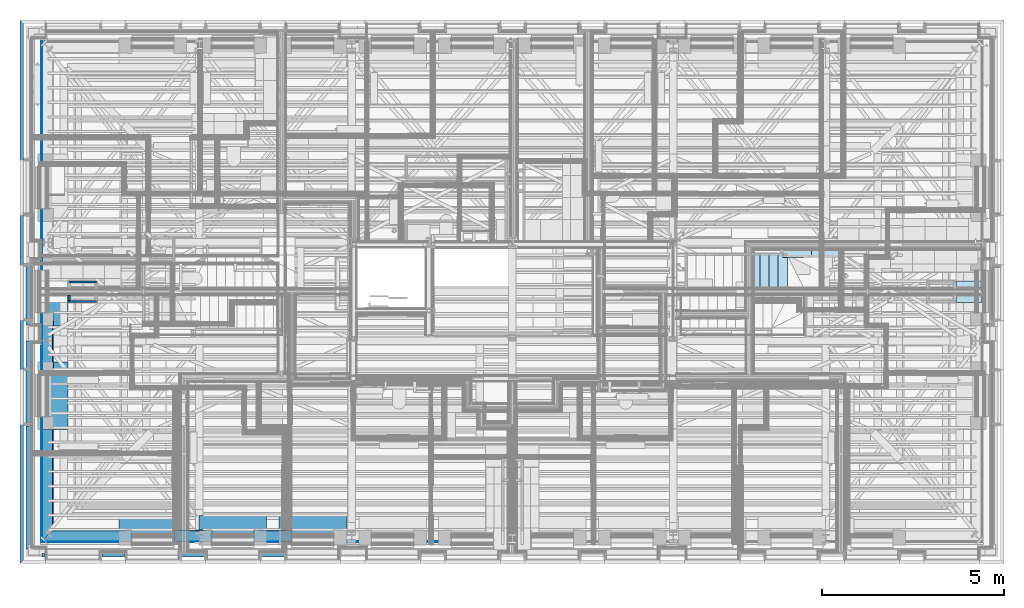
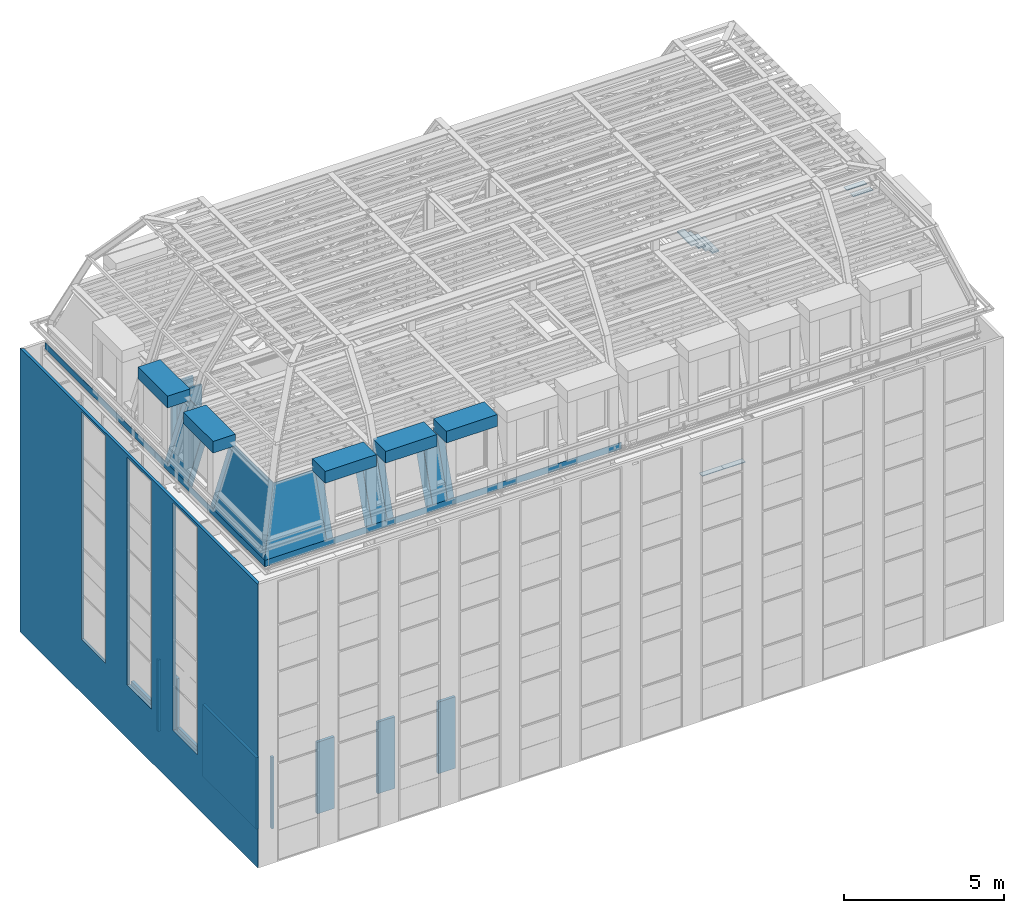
# One storey, part 13 of 183: 32 walls, 8 slabs, 3 openings.
"""IFC2X3 building model written with IfcOpenShell, lengths in metres."""

from ifc_helpers import new_model, entity, si_unit, converted_unit, derived_unit, money_unit, direction, frame, frame_2d, origin_with_axes, place, context, subcontext, project, spatial, polyline, rectangle, outline, extrude, clip, halfspace, faceted_brep, material, layer, layer_set, layer_usage, type_object, element, save


model = new_model("IFC2X3")

# Units and contexts
model_context = context("Model", 3, precision=1e-05, world=origin_with_axes(), true_north=direction((0.0, 1.0)))
body_context = subcontext(model_context, "Body", "Model", "MODEL_VIEW", scale=1.0)
ifc_project = project(units=[si_unit("LENGTHUNIT", "METRE"), si_unit("AREAUNIT", "SQUARE_METRE"), si_unit("VOLUMEUNIT", "CUBIC_METRE"), si_unit("ABSORBEDDOSEUNIT", "GRAY"), si_unit("AMOUNTOFSUBSTANCEUNIT", "MOLE"), si_unit("DOSEEQUIVALENTUNIT", "SIEVERT"), si_unit("ELECTRICCAPACITANCEUNIT", "FARAD"), si_unit("ELECTRICCHARGEUNIT", "COULOMB"), si_unit("ELECTRICCONDUCTANCEUNIT", "SIEMENS"), si_unit("ELECTRICCURRENTUNIT", "AMPERE"), si_unit("ELECTRICRESISTANCEUNIT", "OHM"), si_unit("ELECTRICVOLTAGEUNIT", "VOLT"), si_unit("ENERGYUNIT", "JOULE"), si_unit("FORCEUNIT", "NEWTON"), si_unit("FREQUENCYUNIT", "HERTZ"), si_unit("ILLUMINANCEUNIT", "LUX"), si_unit("INDUCTANCEUNIT", "HENRY"), si_unit("LUMINOUSFLUXUNIT", "LUMEN"), si_unit("LUMINOUSINTENSITYUNIT", "CANDELA"), si_unit("MAGNETICFLUXDENSITYUNIT", "TESLA"), si_unit("MAGNETICFLUXUNIT", "WEBER"), si_unit("MASSUNIT", "GRAM"), converted_unit("PLANEANGLEUNIT", "degree", entity("IfcReal", 0.0174532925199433), si_unit("PLANEANGLEUNIT", "RADIAN"), dimensions=[0, 0, 0, 0, 0, 0, 0]), si_unit("POWERUNIT", "WATT"), si_unit("PRESSUREUNIT", "PASCAL"), si_unit("RADIOACTIVITYUNIT", "BECQUEREL"), si_unit("SOLIDANGLEUNIT", "STERADIAN"), si_unit("THERMODYNAMICTEMPERATUREUNIT", "KELVIN"), si_unit("TIMEUNIT", "SECOND"), derived_unit("ACCELERATIONUNIT", [(si_unit("LENGTHUNIT", "METRE"), 1), (si_unit("TIMEUNIT", "SECOND"), -2)]), derived_unit("ANGULARVELOCITYUNIT", [(converted_unit("PLANEANGLEUNIT", "degree", entity("IfcReal", 0.0174532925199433), si_unit("PLANEANGLEUNIT", "RADIAN"), dimensions=[0, 0, 0, 0, 0, 0, 0]), 1), (si_unit("TIMEUNIT", "SECOND"), -1)]), derived_unit("CURVATUREUNIT", [(converted_unit("PLANEANGLEUNIT", "degree", entity("IfcReal", 0.0174532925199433), si_unit("PLANEANGLEUNIT", "RADIAN"), dimensions=[0, 0, 0, 0, 0, 0, 0]), 1), (si_unit("LENGTHUNIT", "METRE"), -1)]), derived_unit("DYNAMICVISCOSITYUNIT", [(si_unit("PRESSUREUNIT", "PASCAL"), 1), (si_unit("TIMEUNIT", "SECOND"), 1)]), derived_unit("HEATFLUXDENSITYUNIT", [(si_unit("POWERUNIT", "WATT"), 1), (si_unit("LENGTHUNIT", "METRE"), -2)]), derived_unit("HEATINGVALUEUNIT", [(si_unit("ENERGYUNIT", "JOULE"), 1), (si_unit("MASSUNIT", "GRAM"), -1)]), derived_unit("INTEGERCOUNTRATEUNIT", [(si_unit("TIMEUNIT", "SECOND"), -1)]), derived_unit("IONCONCENTRATIONUNIT", [(si_unit("MASSUNIT", "GRAM"), 1), (si_unit("VOLUMEUNIT", "CUBIC_METRE"), -1)]), derived_unit("ISOTHERMALMOISTURECAPACITYUNIT", [(si_unit("VOLUMEUNIT", "CUBIC_METRE"), 1), (si_unit("MASSUNIT", "GRAM"), -1)]), derived_unit("KINEMATICVISCOSITYUNIT", [(si_unit("AREAUNIT", "SQUARE_METRE"), 1), (si_unit("TIMEUNIT", "SECOND"), -1)]), derived_unit("LINEARFORCEUNIT", [(si_unit("FORCEUNIT", "NEWTON"), 1), (si_unit("LENGTHUNIT", "METRE"), -1)]), derived_unit("LINEARMOMENTUNIT", [(si_unit("FORCEUNIT", "NEWTON"), 1), (si_unit("LENGTHUNIT", "METRE"), -1)]), derived_unit("LINEARSTIFFNESSUNIT", [(si_unit("FORCEUNIT", "NEWTON"), 1), (si_unit("LENGTHUNIT", "METRE"), -1)]), derived_unit("LINEARVELOCITYUNIT", [(si_unit("LENGTHUNIT", "METRE"), 1), (si_unit("TIMEUNIT", "SECOND"), -1)]), derived_unit("LUMINOUSINTENSITYDISTRIBUTIONUNIT", [(si_unit("LUMINOUSINTENSITYUNIT", "CANDELA"), 1), (si_unit("LUMINOUSFLUXUNIT", "LUMEN"), -1)]), derived_unit("MASSDENSITYUNIT", [(si_unit("MASSUNIT", "GRAM"), 1), (si_unit("VOLUMEUNIT", "CUBIC_METRE"), -1)]), derived_unit("MASSFLOWRATEUNIT", [(si_unit("MASSUNIT", "GRAM"), 1), (si_unit("TIMEUNIT", "SECOND"), -1)]), derived_unit("MASSPERLENGTHUNIT", [(si_unit("MASSUNIT", "GRAM"), 1), (si_unit("LENGTHUNIT", "METRE"), -1)]), derived_unit("MODULUSOFELASTICITYUNIT", [(si_unit("FORCEUNIT", "NEWTON"), 1), (si_unit("AREAUNIT", "SQUARE_METRE"), -1)]), derived_unit("MODULUSOFLINEARSUBGRADEREACTIONUNIT", [(si_unit("FORCEUNIT", "NEWTON"), 1), (si_unit("LENGTHUNIT", "METRE"), -2)]), derived_unit("MODULUSOFROTATIONALSUBGRADEREACTIONUNIT", [(si_unit("FORCEUNIT", "NEWTON"), 1), (si_unit("LENGTHUNIT", "METRE"), 1)]), derived_unit("MODULUSOFSUBGRADEREACTIONUNIT", [(si_unit("FORCEUNIT", "NEWTON"), 1), (si_unit("VOLUMEUNIT", "CUBIC_METRE"), -1)]), derived_unit("MOISTUREDIFFUSIVITYUNIT", [(si_unit("VOLUMEUNIT", "CUBIC_METRE"), 1), (si_unit("TIMEUNIT", "SECOND"), -1)]), derived_unit("MOLECULARWEIGHTUNIT", [(si_unit("MASSUNIT", "GRAM"), 1), (si_unit("AMOUNTOFSUBSTANCEUNIT", "MOLE"), -1)]), derived_unit("PLANARFORCEUNIT", [(si_unit("FORCEUNIT", "NEWTON"), 1), (si_unit("LENGTHUNIT", "METRE"), -2)]), derived_unit("ROTATIONALFREQUENCYUNIT", [(si_unit("TIMEUNIT", "SECOND"), -1)]), derived_unit("ROTATIONALMASSUNIT", [(si_unit("MASSUNIT", "GRAM"), 1), (si_unit("LENGTHUNIT", "METRE"), 2)]), derived_unit("ROTATIONALSTIFFNESSUNIT", [(si_unit("FORCEUNIT", "NEWTON"), 1), (si_unit("LENGTHUNIT", "METRE"), 1), (converted_unit("PLANEANGLEUNIT", "degree", entity("IfcReal", 0.0174532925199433), si_unit("PLANEANGLEUNIT", "RADIAN"), dimensions=[0, 0, 0, 0, 0, 0, 0]), -1)]), derived_unit("SECTIONAREAINTEGRALUNIT", [(si_unit("LENGTHUNIT", "METRE"), 5)]), derived_unit("SECTIONMODULUSUNIT", [(si_unit("LENGTHUNIT", "METRE"), 3)]), derived_unit("SHEARMODULUSUNIT", [(si_unit("FORCEUNIT", "NEWTON"), 1), (si_unit("AREAUNIT", "SQUARE_METRE"), -1)]), derived_unit("SOUNDPOWERUNIT", [(si_unit("ENERGYUNIT", "JOULE"), 1), (si_unit("TIMEUNIT", "SECOND"), -1)]), derived_unit("SPECIFICHEATCAPACITYUNIT", [(si_unit("FORCEUNIT", "NEWTON"), 1), (si_unit("MASSUNIT", "GRAM"), -1), (si_unit("THERMODYNAMICTEMPERATUREUNIT", "KELVIN"), -1)]), derived_unit("TEMPERATUREGRADIENTUNIT", [(si_unit("THERMODYNAMICTEMPERATUREUNIT", "KELVIN"), 1), (si_unit("LENGTHUNIT", "METRE"), -1)]), derived_unit("THERMALADMITTANCEUNIT", [(si_unit("POWERUNIT", "WATT"), 1), (si_unit("AREAUNIT", "SQUARE_METRE"), -1), (si_unit("THERMODYNAMICTEMPERATUREUNIT", "KELVIN"), -1)]), derived_unit("THERMALCONDUCTANCEUNIT", [(si_unit("POWERUNIT", "WATT"), 1), (si_unit("LENGTHUNIT", "METRE"), -1), (si_unit("THERMODYNAMICTEMPERATUREUNIT", "KELVIN"), -1)]), derived_unit("THERMALEXPANSIONCOEFFICIENTUNIT", [(si_unit("THERMODYNAMICTEMPERATUREUNIT", "KELVIN"), -1)]), derived_unit("THERMALRESISTANCEUNIT", [(si_unit("AREAUNIT", "SQUARE_METRE"), 1), (si_unit("POWERUNIT", "WATT"), -1)]), derived_unit("THERMALTRANSMITTANCEUNIT", [(si_unit("POWERUNIT", "WATT"), 1), (si_unit("AREAUNIT", "SQUARE_METRE"), -1), (si_unit("THERMODYNAMICTEMPERATUREUNIT", "KELVIN"), -1)]), derived_unit("TORQUEUNIT", [(si_unit("FORCEUNIT", "NEWTON"), 1), (si_unit("LENGTHUNIT", "METRE"), 1)]), derived_unit("VAPORPERMEABILITYUNIT", [(si_unit("MASSUNIT", "GRAM"), 1), (si_unit("TIMEUNIT", "SECOND"), -1)]), derived_unit("VOLUMETRICFLOWRATEUNIT", [(si_unit("VOLUMEUNIT", "CUBIC_METRE"), 1), (si_unit("TIMEUNIT", "SECOND"), -1)]), derived_unit("WARPINGCONSTANTUNIT", [(si_unit("LENGTHUNIT", "METRE"), 6)]), derived_unit("WARPINGMOMENTUNIT", [(si_unit("FORCEUNIT", "NEWTON"), 1), (si_unit("LENGTHUNIT", "METRE"), 2)]), money_unit("GBP")], contexts=[model_context])

# Site, building, storey
site_placement = place(None, origin_with_axes())
site = spatial("IfcSite", under=ifc_project, at=site_placement, Name="Site", CompositionType="ELEMENT")
building_placement = place(site_placement, origin_with_axes())
building = spatial("IfcBuilding", under=site, at=building_placement, Name="Building01", CompositionType="ELEMENT")
storey_placement = place(building_placement, frame((0.0, 0.0, 5.15), z_axis=(0.0, 0.0, 1.0), x_axis=(1.0, 0.0, 0.0)))
storey = spatial("IfcBuildingStorey", under=building, at=storey_placement, Name="1F", CompositionType="ELEMENT", Elevation=5.15)

# Slabs
ifc_material_1 = material(Name="A_BSUK_Ceramic_WallTiles")
slab_type = type_object("IfcSlabType", Name="A-FloorsSlabs A_BSUK_Slabs", PredefinedType="FLOOR")
placement = place(storey_placement, frame((0.0, 0.0, -5.15), z_axis=(0.0, 0.0, 1.0), x_axis=(1.0, 0.0, 0.0)))
element("IfcSlab", 1, at=placement, inside=storey, type_object=slab_type, material=ifc_material_1, Name="A-FloorsSlabs A_BSUK_Slabs", ObjectType="CompoundSlabLeaf", context=body_context, shape_type="Brep", body=[
    faceted_brep([(22.476661, 8.595, 6.525), (22.476661, 8.595, 6.55), (22.476661, 8.395001, 6.55), (22.476661, 8.395001, 6.525), (21.699661, 8.594999, 6.525), (21.699661, 8.594999, 6.55), (21.699661, 8.395003, 6.525), (21.699661, 8.395003, 6.55)], [[[0, 1, 2, 3]], [[4, 5, 1, 0]], [[6, 7, 5, 4]], [[3, 2, 7, 6]], [[1, 5, 7, 2]], [[3, 6, 4, 0]]]),
])
element("IfcSlab", 2, at=placement, inside=storey, type_object=slab_type, material=ifc_material_1, Name="A-FloorsSlabs A_BSUK_Slabs", ObjectType="CompoundSlabLeaf", context=body_context, shape_type="Brep", body=[
    faceted_brep([(21.699661, 8.595, 6.525), (21.699661, 8.595, 6.55), (21.699661, 8.395003, 6.55), (21.699661, 8.395003, 6.525), (20.922661, 8.595, 6.525), (20.922661, 8.595, 6.55), (20.922661, 8.394685, 6.525), (20.922661, 8.394685, 6.55)], [[[0, 1, 2, 3]], [[4, 5, 1, 0]], [[6, 7, 5, 4]], [[3, 2, 7, 6]], [[1, 5, 7, 2]], [[3, 6, 4, 0]]]),
])
element("IfcSlab", 3, at=placement, inside=storey, type_object=slab_type, material=ifc_material_1, Name="A-FloorsSlabs A_BSUK_Slabs", ObjectType="CompoundSlabLeaf", context=body_context, shape_type="Brep", body=[
    faceted_brep([(26.380061, 7.749913, 16.305), (26.380061, 7.749913, 16.33), (26.380061, 7.549915, 16.33), (26.380061, 7.549915, 16.305), (25.658821, 7.749913, 16.305), (25.658821, 7.749913, 16.33), (25.658821, 7.549915, 16.305), (25.658821, 7.549915, 16.33)], [[[0, 1, 2, 3]], [[4, 5, 1, 0]], [[6, 7, 5, 4]], [[3, 2, 7, 6]], [[1, 5, 7, 2]], [[3, 6, 4, 0]]]),
])
element("IfcSlab", 4, at=placement, inside=storey, type_object=slab_type, material=ifc_material_1, Name="A-FloorsSlabs A_BSUK_Slabs", ObjectType="CompoundSlabLeaf", context=body_context, shape_type="Brep", body=[
    faceted_brep([(26.380061, 7.349964, 16.305), (26.380061, 7.349964, 16.33), (26.380061, 7.149966, 16.33), (26.380061, 7.149966, 16.305), (25.658821, 7.349964, 16.305), (25.658821, 7.349964, 16.33), (25.658821, 7.149966, 16.305), (25.658821, 7.149966, 16.33)], [[[0, 1, 2, 3]], [[4, 5, 1, 0]], [[6, 7, 5, 4]], [[3, 2, 7, 6]], [[1, 5, 7, 2]], [[3, 6, 4, 0]]]),
])
ifc_material_2 = material(Name="A_BSUK_Slabs")
element("IfcSlab", 5, at=placement, inside=storey, type_object=slab_type, material=ifc_material_2, Name="A-FloorsSlabs A_BSUK_Slabs", ObjectType="CompoundSlabLeaf", context=body_context, shape_type="Brep", body=[
    faceted_brep([(20.289976, 7.549915, 16.14), (20.289976, 7.549915, 16.19), (20.039976, 7.549915, 16.19), (20.039976, 7.549915, 16.14), (20.289976, 8.449915, 16.14), (20.289976, 8.449915, 16.19), (20.039976, 8.449915, 16.14), (20.039976, 8.449915, 16.19)], [[[0, 1, 2, 3]], [[4, 5, 1, 0]], [[6, 7, 5, 4]], [[3, 2, 7, 6]], [[1, 5, 7, 2]], [[3, 6, 4, 0]]]),
])
element("IfcSlab", 6, at=placement, inside=storey, type_object=slab_type, material=ifc_material_2, Name="A-FloorsSlabs A_BSUK_Slabs", ObjectType="CompoundSlabLeaf", context=body_context, shape_type="Brep", body=[
    faceted_brep([(20.539976, 7.549915, 15.96), (20.539976, 7.549915, 16.01), (20.289976, 7.549915, 16.01), (20.289976, 7.549915, 15.96), (20.539976, 8.449915, 15.96), (20.539976, 8.449915, 16.01), (20.289976, 8.449915, 15.96), (20.289976, 8.449915, 16.01)], [[[0, 1, 2, 3]], [[4, 5, 1, 0]], [[6, 7, 5, 4]], [[3, 2, 7, 6]], [[1, 5, 7, 2]], [[3, 6, 4, 0]]]),
])
element("IfcSlab", 7, at=placement, inside=storey, type_object=slab_type, material=ifc_material_2, Name="A-FloorsSlabs A_BSUK_Slabs", ObjectType="CompoundSlabLeaf", context=body_context, shape_type="Brep", body=[
    faceted_brep([(20.789976, 7.549915, 15.78), (20.789976, 7.549915, 15.83), (20.539976, 7.549915, 15.83), (20.539976, 7.549915, 15.78), (20.789976, 8.449915, 15.78), (20.789976, 8.449915, 15.83), (20.539976, 8.449915, 15.78), (20.539976, 8.449915, 15.83)], [[[0, 1, 2, 3]], [[4, 5, 1, 0]], [[6, 7, 5, 4]], [[3, 2, 7, 6]], [[1, 5, 7, 2]], [[3, 6, 4, 0]]]),
])
element("IfcSlab", 8, at=placement, inside=storey, type_object=slab_type, material=ifc_material_2, Name="A-FloorsSlabs A_BSUK_Slabs", ObjectType="CompoundSlabLeaf", context=body_context, shape_type="Brep", body=[
    faceted_brep([(21.039976, 7.549915, 15.6), (21.039976, 7.549915, 15.65), (20.789976, 7.549915, 15.65), (20.789976, 7.549915, 15.6), (21.039976, 8.449915, 15.6), (21.039976, 8.449915, 15.65), (20.789976, 8.449915, 15.6), (20.789976, 8.449915, 15.65)], [[[0, 1, 2, 3]], [[4, 5, 1, 0]], [[6, 7, 5, 4]], [[3, 2, 7, 6]], [[1, 5, 7, 2]], [[3, 6, 4, 0]]]),
])

# Wall, openings
ifc_material_3 = material(Name="A_BSUK_WallsExternal_Brick")
ifc_layer_1 = layer(ifc_material_3, 0.1, ventilated=False)
ifc_layer_set_1 = layer_set([ifc_layer_1])
ifc_layer_usage_1 = layer_usage(ifc_layer_set_1, "AXIS2", "POSITIVE", 0.0)
wall_type_1 = type_object("IfcWallType", Name="A-Walls-ExternalBrick", PredefinedType="NOTDEFINED")
wall_1_placement = place(storey_placement, frame((0.0, 0.0, -1.18), z_axis=(0.0, 0.0, 1.0), x_axis=(0.0, 1.0, 0.0)))
wall_1 = element("IfcWallStandardCase", 9, at=wall_1_placement, inside=storey, type_object=wall_type_1, material=ifc_layer_usage_1, Name="A-Walls-ExternalBrick", ObjectType="A-Walls-ExternalBrick", context=body_context, shape_type="SweptSolid", body=[
    extrude(outline(polyline([(14.9, 0.0), (0.0, 0.0), (0.1, -0.1), (14.8, -0.1), (14.9, 0.0)])), origin_with_axes(), (0.0, 0.0, 1.0), 10.850238),
])
opening_1_placement = place(wall_1_placement, frame((9.53718, -0.1, 2.045508), z_axis=(0.0, 0.0, 1.0), x_axis=(1.0, 0.0, 0.0)))
element("IfcOpeningElement", 10, at=opening_1_placement, cuts=wall_1, Name="Opening", ObjectType="Opening", context=body_context, shape_type="SweptSolid", body=[
    extrude(rectangle(XDim=1.52, YDim=8.7, at=frame_2d((-0.76, 4.35), x_axis=(-1.0, 0.0))), frame((0.0, 0.0, 0.0), z_axis=(0.0, 1.0, 0.0), x_axis=(-1.0, 0.0, 0.0)), (0.0, 0.0, 1.0), 0.1),
])
opening_2_placement = place(wall_1_placement, frame((6.66718, -0.1, 2.045508), z_axis=(0.0, 0.0, 1.0), x_axis=(1.0, 0.0, 0.0)))
element("IfcOpeningElement", 11, at=opening_2_placement, cuts=wall_1, Name="Opening", ObjectType="Opening", context=body_context, shape_type="SweptSolid", body=[
    extrude(rectangle(XDim=1.52, YDim=8.7, at=frame_2d((-0.76, 4.35), x_axis=(-1.0, 0.0))), frame((0.0, 0.0, 0.0), z_axis=(0.0, 1.0, 0.0), x_axis=(-1.0, 0.0, 0.0)), (0.0, 0.0, 1.0), 0.1),
])
opening_3_placement = place(wall_1_placement, frame((3.79718, -0.1, 2.045508), z_axis=(0.0, 0.0, 1.0), x_axis=(1.0, 0.0, 0.0)))
element("IfcOpeningElement", 12, at=opening_3_placement, cuts=wall_1, Name="Opening", ObjectType="Opening", context=body_context, shape_type="SweptSolid", body=[
    extrude(rectangle(XDim=1.52, YDim=8.7, at=frame_2d((-0.76, 4.35), x_axis=(-1.0, 0.0))), frame((0.0, 0.0, 0.0), z_axis=(0.0, 1.0, 0.0), x_axis=(-1.0, 0.0, 0.0)), (0.0, 0.0, 1.0), 0.1),
])

# Walls
ifc_material_4 = material(Name="A_BSUK_WallsExternal_Block")
ifc_layer_2 = layer(ifc_material_4, 0.1, ventilated=False)
ifc_layer_set_2 = layer_set([ifc_layer_2])
ifc_layer_usage_2 = layer_usage(ifc_layer_set_2, "AXIS2", "POSITIVE", 0.0)
wall_type_2 = type_object("IfcWallType", Name="A-Walls-ExternalBlock", PredefinedType="NOTDEFINED")
wall_2_placement = place(storey_placement, frame((0.17, 8.233, 0.0), z_axis=(0.0, 0.0, 1.0), x_axis=(0.0, -1.0, 0.0)))
element("IfcWallStandardCase", 13, at=wall_2_placement, inside=storey, type_object=wall_type_2, material=ifc_layer_usage_2, Name="A-Walls-ExternalBlock", ObjectType="A-Walls-ExternalBlock", context=body_context, shape_type="SweptSolid", body=[
    extrude(rectangle(XDim=1.58882, YDim=0.1, at=frame_2d((0.79441, 0.05), x_axis=(1.0, 0.0))), origin_with_axes(), (0.0, 0.0, 1.0), 0.915),
])
wall_3_placement = place(storey_placement, frame((0.17, 6.64418, 0.0), z_axis=(0.0, 0.0, 1.0), x_axis=(0.0, -1.0, 0.0)))
element("IfcWallStandardCase", 14, at=wall_3_placement, inside=storey, type_object=wall_type_2, material=ifc_layer_usage_2, Name="A-Walls-ExternalBlock", ObjectType="A-Walls-ExternalBlock", context=body_context, shape_type="SweptSolid", body=[
    extrude(rectangle(XDim=0.09618, YDim=0.1, at=frame_2d((0.04809, 0.05), x_axis=(-1.0, 0.0))), origin_with_axes(), (0.0, 0.0, 1.0), 2.74),
])
wall_4_placement = place(storey_placement, frame((0.17, 6.1, 0.0), z_axis=(0.0, 0.0, 1.0), x_axis=(0.0, -1.0, 0.0)))
element("IfcWallStandardCase", 15, at=wall_4_placement, inside=storey, type_object=wall_type_2, material=ifc_layer_usage_2, Name="A-Walls-ExternalBlock", ObjectType="A-Walls-ExternalBlock", context=body_context, shape_type="SweptSolid", body=[
    extrude(rectangle(XDim=0.737, YDim=0.1, at=frame_2d((0.3685, 0.05), x_axis=(-1.0, 0.0))), origin_with_axes(), (0.0, 0.0, 1.0), 2.74),
])
wall_5_placement = place(storey_placement, frame((0.17, 3.77418, 0.0), z_axis=(0.0, 0.0, 1.0), x_axis=(0.0, -1.0, 0.0)))
element("IfcWallStandardCase", 16, at=wall_5_placement, inside=storey, type_object=wall_type_2, material=ifc_layer_usage_2, Name="A-Walls-ExternalBlock", ObjectType="A-Walls-ExternalBlock", context=body_context, shape_type="SweptSolid", body=[
    extrude(rectangle(XDim=0.1, YDim=3.37418, at=frame_2d((1.68709, 0.05), x_axis=(0.0, -1.0))), origin_with_axes(), (0.0, 0.0, 1.0), 2.74),
])
wall_6_placement = place(storey_placement, frame((0.677, 0.27, 0.0), z_axis=(0.0, 0.0, 1.0), x_axis=(-1.0, 0.0, 0.0)))
element("IfcWallStandardCase", 17, at=wall_6_placement, inside=storey, type_object=wall_type_2, material=ifc_layer_usage_2, Name="A-Walls-ExternalBlock", ObjectType="A-Walls-ExternalBlock", context=body_context, shape_type="SweptSolid", body=[
    extrude(rectangle(XDim=0.1, YDim=0.077, at=frame_2d((0.0385, 0.05), x_axis=(0.0, -1.0))), origin_with_axes(), (0.0, 0.0, 1.0), 2.74),
])
for number, where, z_axis, x_axis, name in (
    (18, (2.867, 0.27, 0.0), (0.0, 0.0, 1.0), (-1.0, 0.0, 0.0), "A-Walls-ExternalBlock"),
    (19, (5.057, 0.27, 0.0), (0.0, 0.0, 1.0), (-1.0, 0.0, 0.0), "A-Walls-ExternalBlock"),
    (20, (7.247, 0.27, 0.0), (0.0, 0.0, 1.0), (-1.0, 0.0, 0.0), "A-Walls-ExternalBlock"),
):
    element("IfcWallStandardCase", number, at=place(storey_placement, frame(where, z_axis=z_axis, x_axis=x_axis)), inside=storey, type_object=wall_type_2, material=ifc_layer_usage_2, Name=name, ObjectType="A-Walls-ExternalBlock", context=body_context, shape_type="SweptSolid", body=[
        extrude(rectangle(XDim=0.624, YDim=0.1, at=frame_2d((0.312, 0.05), x_axis=(-1.0, 0.0))), origin_with_axes(), (0.0, 0.0, 1.0), 2.74),
    ])
wall_7_placement = place(storey_placement, frame((0.17, 5.315, 0.0), z_axis=(0.0, 0.0, 1.0), x_axis=(0.0, -1.0, 0.0)))
element("IfcWallStandardCase", 21, at=wall_7_placement, inside=storey, type_object=wall_type_2, material=ifc_layer_usage_2, Name="A-Walls-ExternalBlock", ObjectType="A-Walls-ExternalBlock", context=body_context, shape_type="SweptSolid", body=[
    extrude(rectangle(XDim=0.1, YDim=1.54082, at=frame_2d((0.77041, 0.05), x_axis=(0.0, -1.0))), origin_with_axes(), (0.0, 0.0, 1.0), 0.915),
])
ifc_material_5 = material(Name="A_BSUK_WallsInternal")
ifc_layer_3 = layer(ifc_material_5, 0.025, ventilated=False)
ifc_layer_set_3 = layer_set([ifc_layer_3])
ifc_layer_usage_3 = layer_usage(ifc_layer_set_3, "AXIS2", "POSITIVE", 0.0)
wall_type_3 = type_object("IfcWallType", Name="A-Walls-Internal", PredefinedType="NOTDEFINED")
wall_8_placement = place(storey_placement, frame((0.5788, 0.5788, 9.78), z_axis=(0.0, 0.0, 1.0), x_axis=(1.0, 0.0, 0.0)))
element("IfcWallStandardCase", 22, at=wall_8_placement, inside=storey, type_object=wall_type_3, material=ifc_layer_usage_3, Name="7C", ObjectType="A-Walls-Internal", context=body_context, shape_type="SweptSolid", body=[
    extrude(outline(polyline([(0.025, 0.025), (0.0, 0.0), (12.9112, 0.0), (12.9112, 0.025), (0.025, 0.025)])), origin_with_axes(), (0.0, 0.0, 1.0), 0.25),
])
wall_9_placement = place(storey_placement, frame((0.5788, 7.45, 9.78), z_axis=(0.0, 0.0, 1.0), x_axis=(0.0, -1.0, 0.0)))
element("IfcWallStandardCase", 23, at=wall_9_placement, inside=storey, type_object=wall_type_3, material=ifc_layer_usage_3, Name="7C", ObjectType="A-Walls-Internal", context=body_context, shape_type="SweptSolid", body=[
    extrude(outline(polyline([(6.8462, 0.025), (0.0, 0.025), (0.0, 0.0), (6.8712, 0.0), (6.8462, 0.025)])), origin_with_axes(), (0.0, 0.0, 1.0), 0.25),
])
ifc_layer_4 = layer(ifc_material_5, 0.015, ventilated=False)
ifc_layer_set_4 = layer_set([ifc_layer_4])
ifc_layer_usage_4 = layer_usage(ifc_layer_set_4, "AXIS2", "POSITIVE", 0.0)
wall_10_placement = place(storey_placement, frame((0.5788, 14.3212, 9.78), z_axis=(0.0, 0.0, 1.0), x_axis=(0.0, -1.0, 0.0)))
element("IfcWallStandardCase", 24, at=wall_10_placement, inside=storey, type_object=wall_type_3, material=ifc_layer_usage_4, Name="7C", ObjectType="A-Walls-Internal", context=body_context, shape_type="SweptSolid", body=[
    extrude(rectangle(XDim=13.7424, YDim=0.015, at=frame_2d((6.8712, 0.0075), x_axis=(-1.0, 0.0))), origin_with_axes(), (0.0, 0.0, 1.0), 0.25),
])
wall_11_placement = place(storey_placement, frame((0.5938, 14.3062, 9.78), z_axis=(0.0, 0.0, 1.0), x_axis=(0.0, -1.0, 0.0)))
element("IfcWallStandardCase", 25, at=wall_11_placement, inside=storey, type_object=wall_type_3, material=ifc_layer_usage_4, Name="7C", ObjectType="A-Walls-Internal", context=body_context, shape_type="SweptSolid", body=[
    extrude(rectangle(XDim=13.7124, YDim=0.015, at=frame_2d((6.8562, 0.0075), x_axis=(-1.0, 0.0))), origin_with_axes(), (0.0, 0.0, 1.0), 0.25),
])
ifc_material_6 = material(Name="A_BSUK_Walls_Timber")
ifc_layer_5 = layer(ifc_material_6, 0.015, ventilated=False)
ifc_material_7 = material(Name="A_BSUK_OpeningsClearance")
ifc_layer_6 = layer(ifc_material_7, 0.05, ventilated=False)
ifc_layer_set_5 = layer_set([ifc_layer_5, ifc_layer_6])
ifc_layer_usage_5 = layer_usage(ifc_layer_set_5, "AXIS2", "POSITIVE", 0.0)
wall_type_4 = type_object("IfcWallType", Name="SHE_A-Walls_Type05c_PreWallShell_65mm", PredefinedType="NOTDEFINED")
wall_12_placement = place(storey_placement, frame((2.100111, 7.21494, 9.78), z_axis=(0.0, 0.0, 1.0), x_axis=(1.0, 0.0, 0.0)))
element("IfcWallStandardCase", 26, at=wall_12_placement, inside=storey, type_object=wall_type_4, material=ifc_layer_usage_5, Name="5C", ObjectType="SHE_A-Walls_Type05c_PreWallShell_65mm", context=body_context, shape_type="SweptSolid", body=[
    extrude(outline(polyline([(0.015, -0.065), (0.015, -0.05), (0.0, -0.05), (0.0, 0.0), (-0.77, 0.0), (-0.77, -0.05), (-0.785, -0.05), (-0.785, -0.065), (0.015, -0.065)])), origin_with_axes(), (0.0, 0.0, 1.0), 2.468),
])
ifc_layer_set_6 = layer_set([ifc_layer_6, ifc_layer_5])
ifc_layer_usage_6 = layer_usage(ifc_layer_set_6, "AXIS2", "POSITIVE", 0.0)
wall_13_placement = place(storey_placement, frame((1.380111, 7.349889, 9.78), z_axis=(0.0, 0.0, 1.0), x_axis=(0.0, 1.0, 0.0)))
element("IfcWallStandardCase", 27, at=wall_13_placement, inside=storey, type_object=wall_type_4, material=ifc_layer_usage_6, Name="5C", ObjectType="SHE_A-Walls_Type05c_PreWallShell_65mm", context=body_context, shape_type="SweptSolid", body=[
    extrude(outline(polyline([(0.0, 0.0), (0.0, 0.065), (-0.184949, 0.065), (-0.184949, 0.05), (-0.134949, 0.05), (-0.134949, 0.0), (0.0, 0.0)])), origin_with_axes(), (0.0, 0.0, 1.0), 2.468),
])
wall_14_placement = place(storey_placement, frame((2.100111, 7.68506, 9.78), z_axis=(0.0, 0.0, 1.0), x_axis=(-1.0, 0.0, 0.0)))
element("IfcWallStandardCase", 28, at=wall_14_placement, inside=storey, type_object=wall_type_4, material=ifc_layer_usage_5, Name="5C", ObjectType="SHE_A-Walls_Type05c_PreWallShell_65mm", context=body_context, shape_type="SweptSolid", body=[
    extrude(outline(polyline([(0.77, -0.05), (0.77, 0.0), (0.0, 0.0), (0.0, -0.05), (-0.015, -0.05), (-0.015, -0.065), (0.785, -0.065), (0.785, -0.05), (0.77, -0.05)])), origin_with_axes(), (0.0, 0.0, 1.0), 2.468),
])
ifc_material_8 = material(Name="A_BSUK_Roofs")
wall_type_5 = type_object("IfcWallType", Name="A-Walls-ExternalBlock", PredefinedType="NOTDEFINED")
for number, where, z_axis, x_axis, name in (
    (29, (2.720049, 1.31, 12.729998), (1.0, 0.0, 0.0), (0.0, -1.0, 0.0), "7C"),
    (30, (4.910049, 1.31, 12.729998), (1.0, 0.0, 0.0), (0.0, -1.0, 0.0), "7C"),
    (31, (7.100049, 1.31, 12.729998), (1.0, 0.0, 0.0), (0.0, -1.0, 0.0), "7C"),
    (32, (1.309904, 5.524891, 12.729998), (0.0, -1.0, 0.0), (-1.0, 0.0, 0.0), "7C"),
    (33, (1.309904, 8.374891, 12.729998), (0.0, -1.0, 0.0), (-1.0, 0.0, 0.0), "7C"),
):
    element("IfcWall", number, at=place(storey_placement, frame(where, z_axis=z_axis, x_axis=x_axis)), inside=storey, type_object=wall_type_5, material=ifc_material_8, Name=name, ObjectType="A-Walls-ExternalBlock", context=body_context, shape_type="SweptSolid", body=[
        extrude(rectangle(XDim=0.81, YDim=0.45, at=frame_2d((0.405, 0.225), x_axis=(1.0, 0.0))), origin_with_axes(), (0.0, 0.0, 1.0), 1.849951),
    ])
wall_type_6 = type_object("IfcWallType", Name="A-Walls-Internal", PredefinedType="NOTDEFINED")
wall_15_placement = place(storey_placement, frame((0.5788, 3.774964, 10.03), z_axis=(0.30901699, 0.0, 0.95105652), x_axis=(0.0, -1.0, 0.0)))
element("IfcWall", 34, at=wall_15_placement, inside=storey, type_object=wall_type_6, material=ifc_material_5, Name="7C", ObjectType="A-Walls-Internal", context=body_context, shape_type="Clipping", body=[
    clip(extrude(outline(polyline([(3.181898, 0.015), (0.0, 0.015), (0.0, 0.0), (3.196164, 0.0), (3.181898, 0.015)])), origin_with_axes(), (0.0, 0.0, 1.0), 2.373987), halfspace(frame((1.598082, 1.519866, 0.493834), z_axis=(-0.70710678, -0.67249851, -0.21850801), x_axis=(0.68915176, -0.72461704, 0.0)), True)),
])
wall_16_placement = place(storey_placement, frame((0.5788, 0.5788, 10.03), z_axis=(0.0, 0.30901699, 0.95105652), x_axis=(1.0, 0.0, 0.0)))
element("IfcWall", 35, at=wall_16_placement, inside=storey, type_object=wall_type_6, material=ifc_material_5, Name="7C", ObjectType="A-Walls-Internal", context=body_context, shape_type="Clipping", body=[
    clip(extrude(outline(polyline([(2.241224, 0.015), (0.014266, 0.015), (0.0, 0.0), (2.241224, 0.0), (2.241224, 0.015)])), origin_with_axes(), (0.0, 0.0, 1.0), 2.373987), halfspace(frame((0.0, 0.0, 0.0), z_axis=(0.70710678, -0.67249851, -0.21850801), x_axis=(0.68915176, 0.72461704, 0.0)), True)),
])
wall_17_placement = place(storey_placement, frame((4.469976, 0.5788, 10.03), z_axis=(0.0, 0.30901699, 0.95105652), x_axis=(1.0, 0.0, 0.0)))
element("IfcWall", 36, at=wall_17_placement, inside=storey, type_object=wall_type_6, material=ifc_material_5, Name="7C", ObjectType="A-Walls-Internal", context=body_context, shape_type="SweptSolid", body=[
    extrude(rectangle(XDim=0.540049, YDim=0.015, at=frame_2d((0.270024, 0.0075), x_axis=(-1.0, 0.0))), origin_with_axes(), (0.0, 0.0, 1.0), 2.373987),
])
wall_18_placement = place(storey_placement, frame((6.660024, 0.5788, 10.03), z_axis=(0.0, 0.30901699, 0.95105652), x_axis=(1.0, 0.0, 0.0)))
element("IfcWall", 37, at=wall_18_placement, inside=storey, type_object=wall_type_6, material=ifc_material_5, Name="7C", ObjectType="A-Walls-Internal", context=body_context, shape_type="SweptSolid", body=[
    extrude(rectangle(XDim=0.540001, YDim=0.015, at=frame_2d((0.27, 0.0075), x_axis=(-1.0, 0.0))), origin_with_axes(), (0.0, 0.0, 1.0), 2.373987),
])
wall_19_placement = place(storey_placement, frame((0.5788, 6.624965, 10.03), z_axis=(0.30901699, 0.0, 0.95105652), x_axis=(0.0, -1.0, 0.0)))
element("IfcWall", 38, at=wall_19_placement, inside=storey, type_object=wall_type_6, material=ifc_material_5, Name="7C", ObjectType="A-Walls-Internal", context=body_context, shape_type="SweptSolid", body=[
    extrude(rectangle(XDim=1.20005, YDim=0.015, at=frame_2d((0.600025, 0.0075), x_axis=(-1.0, 0.0))), origin_with_axes(), (0.0, 0.0, 1.0), 2.373987),
])
wall_20_placement = place(storey_placement, frame((0.594428, 0.594428, 10.029557), z_axis=(0.0, 0.30901699, 0.95105652), x_axis=(1.0, 0.0, 0.0)))
element("IfcWall", 39, at=wall_20_placement, inside=storey, type_object=wall_type_6, material=ifc_material_5, Name="7C", ObjectType="A-Walls-Internal", context=body_context, shape_type="Clipping", body=[
    clip(extrude(outline(polyline([(2.475596, 0.015), (0.014266, 0.015), (0.0, 0.0), (2.225596, 0.0), (2.475596, 0.015)])), origin_with_axes(), (0.0, 0.0, 1.0), 2.373987), halfspace(frame((0.0, 0.0, 0.0), z_axis=(0.70710678, -0.67249851, -0.21850801), x_axis=(0.68915176, 0.72461704, 0.0)), True)),
])
wall_21_placement = place(storey_placement, frame((0.594428, 3.774964, 10.029557), z_axis=(0.30901699, 0.0, 0.95105652), x_axis=(0.0, -1.0, 0.0)))
element("IfcWall", 40, at=wall_21_placement, inside=storey, type_object=wall_type_6, material=ifc_material_5, Name="7C", ObjectType="A-Walls-Internal", context=body_context, shape_type="Clipping", body=[
    clip(extrude(outline(polyline([(3.16627, 0.015), (-0.25, 0.015), (0.0, 0.0), (3.180536, 0.0), (3.16627, 0.015)])), origin_with_axes(), (0.0, 0.0, 1.0), 2.373987), halfspace(frame((1.590268, 1.512435, 0.49142), z_axis=(-0.70710678, -0.67249851, -0.21850801), x_axis=(0.68915176, -0.72461704, 0.0)), True)),
])
wall_22_placement = place(storey_placement, frame((0.594428, 6.624965, 10.029557), z_axis=(0.30901699, 0.0, 0.95105652), x_axis=(0.0, -1.0, 0.0)))
element("IfcWall", 41, at=wall_22_placement, inside=storey, type_object=wall_type_6, material=ifc_material_5, Name="7C", ObjectType="A-Walls-Internal", context=body_context, shape_type="SweptSolid", body=[
    extrude(outline(polyline([(1.45005, 0.015), (-0.25, 0.015), (0.0, 0.0), (1.20005, 0.0), (1.45005, 0.015)])), origin_with_axes(), (0.0, 0.0, 1.0), 2.373987),
])
wall_23_placement = place(storey_placement, frame((6.660024, 0.594428, 10.029557), z_axis=(0.0, 0.30901699, 0.95105652), x_axis=(1.0, 0.0, 0.0)))
element("IfcWall", 42, at=wall_23_placement, inside=storey, type_object=wall_type_6, material=ifc_material_5, Name="7C", ObjectType="A-Walls-Internal", context=body_context, shape_type="SweptSolid", body=[
    extrude(outline(polyline([(0.790001, 0.015), (-0.250049, 0.015), (0.0, 0.0), (0.540001, 0.0), (0.790001, 0.015)])), origin_with_axes(), (0.0, 0.0, 1.0), 2.373987),
])
wall_24_placement = place(storey_placement, frame((4.469976, 0.594428, 10.029557), z_axis=(0.0, 0.30901699, 0.95105652), x_axis=(1.0, 0.0, 0.0)))
element("IfcWall", 43, at=wall_24_placement, inside=storey, type_object=wall_type_6, material=ifc_material_5, Name="7C", ObjectType="A-Walls-Internal", context=body_context, shape_type="SweptSolid", body=[
    extrude(outline(polyline([(0.790049, 0.015), (-0.25, 0.015), (0.0, 0.0), (0.540049, 0.0), (0.790049, 0.015)])), origin_with_axes(), (0.0, 0.0, 1.0), 2.373987),
])

save(model, "model.ifc")
